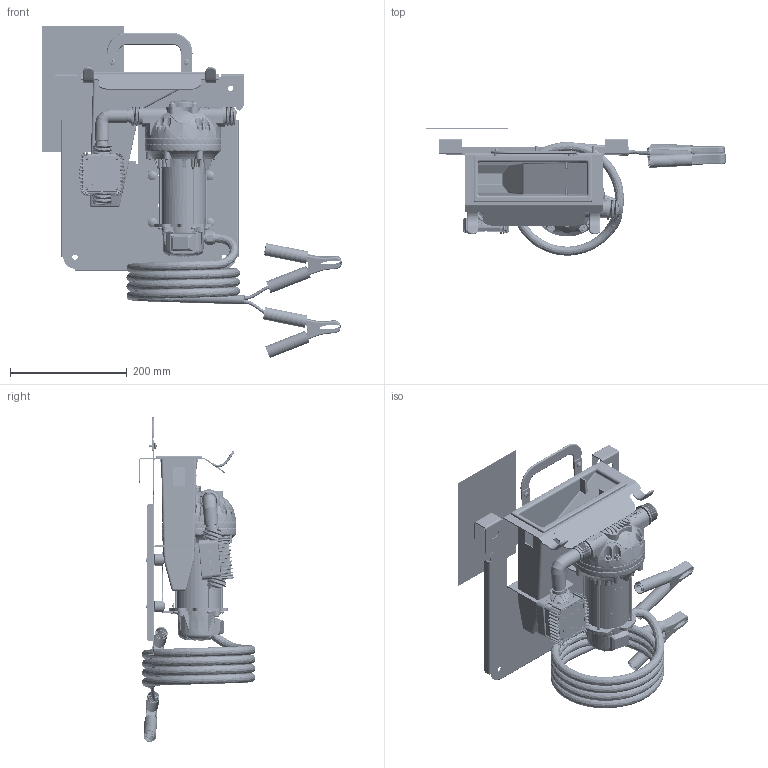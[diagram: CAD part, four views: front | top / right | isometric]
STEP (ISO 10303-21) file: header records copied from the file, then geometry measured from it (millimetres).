
FILE_DESCRIPTION(/* description */ (''),/* implementation_level */ '2;1');
FILE_NAME(/* name */ '180012-03.step',/* time_stamp */ '2025-07-25T11:37:53-05:00',/* author */ (''),/* organization */ (''),/* preprocessor_version */ 'ST-DEVELOPER v20.1',/* originating_system */ 'Autodesk Translation Framework v14.10.0.0',/* authorisation */ '');
FILE_SCHEMA (('AUTOMOTIVE_DESIGN { 1 0 10303 214 3 1 1 }'));
Products named in the file (26): 180012-03; 180_PnBD01_TUOJIA; 180_PnBD01_QIANGHEGAIGUO; 180_PnBD01_BASHOU; 180_PnBD01_WANGJIE; 180902-01; 155600-01; 180110-02; AS 1474 - M6; 900600-35; 180_PnBD01 6' Hose; 905002-84; 905500-02; 180_PnBD01 Nozzle Hose Barb; 180901-03; 180902-02; 922144-01; 180102-01; 922119-01; 180_PnBD01_PANGTOULUODINGM5X10; 180_PnBD01 Barb o-ring; 180_PnBD01_JIETOU; 180_PnBD01_JIETOULUOMU; 180_PnBD01 Worm Drive Clamp; 180_PnBD01 D08SS Rubber Foot; Bolt GB/T 14 M6 x 30
Assembly tree (39 placements, depth 2):
  180012-03
    180_PnBD01_TUOJIA
    180_PnBD01_QIANGHEGAIGUO
    180_PnBD01_BASHOU
    180_PnBD01_PANGTOULUODINGM5X10  x2
    180_PnBD01_WANGJIE
    180_PnBD01_JIETOULUOMU  x4
    180902-01
    155600-01
    180110-02
    180_PnBD01 Barb o-ring  x2
    180_PnBD01_JIETOU  x2
    180_PnBD01 Worm Drive Clamp  x4
    180_PnBD01 D08SS Rubber Foot  x4
    AS 1474 - M6
    900600-35
    905002-84
    905500-02
    180_PnBD01 Nozzle Hose Barb
    180901-03
    180902-02
    922144-01
    Bolt GB/T 14 M6 x 30  x4
    180102-01
    922119-01
  180_PnBD01 6' Hose
Bounding box: 513.43 x 217.41 x 569.3 mm (x, y, z)
Volume: 1909594.3 mm3; surface area: 1396114.1 mm2
Topology: 141 solids, 143 shells, 15694 faces, 40863 edges, 25545 vertices
Faces by surface type: plane 5622, cylinder 3811, bspline 3355, torus 1612, cone 973, sphere 321
Full cylindrical faces by diameter (mm): 1.5 x5, 1.85 x4, 2 x5, 2.024 x5, 2.1 x2, 2.263 x2, 2.5 x12, 2.7 x40, 2.8 x21, 3 x8, 3.2 x24, 3.3 x31, 3.4 x10, 3.5 x41, 3.9 x31, 4 x14, 4.1 x5, 4.2 x63, 4.3 x11, 4.5 x20, 4.773 x4, 4.8 x2, 4.9 x426, 4.917 x1, 5 x9, 5.2 x15, 5.4 x4, 5.5 x8, 5.6 x5, 5.978 x4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
Entity records: 991450 total; most frequent: CARTESIAN_POINT 615901, ORIENTED_EDGE 80658, DIRECTION 68369, EDGE_CURVE 40329, AXIS2_PLACEMENT_3D 25994, VERTEX_POINT 25370, EDGE_LOOP 16477, LINE 16381
